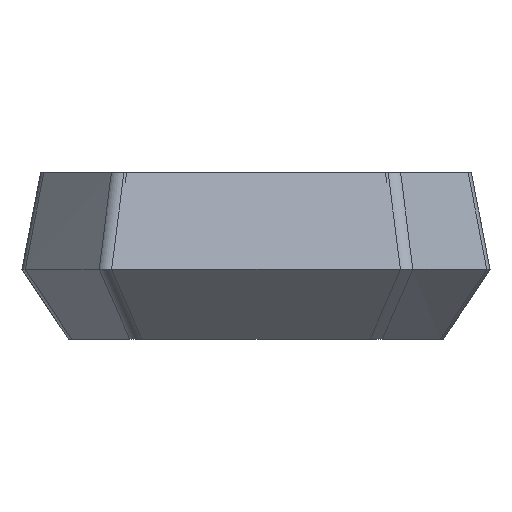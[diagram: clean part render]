
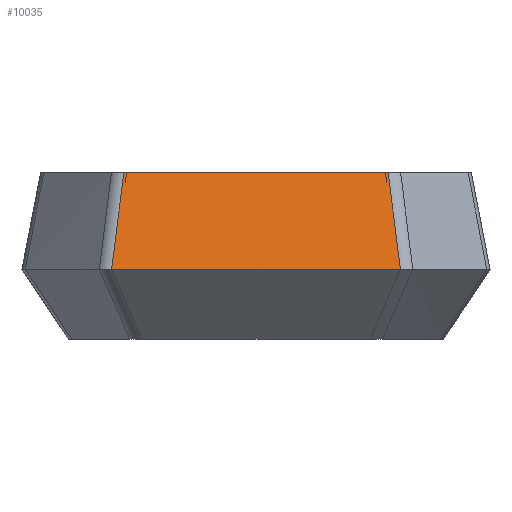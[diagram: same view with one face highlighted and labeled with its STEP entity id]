
A CAD part, left-side view. The second image highlights one B-rep face of the part: STEP entity #10035.
In plain terms, the highlighted free-form (B-spline) face has degree [1, 1] with [2, 2] control points.
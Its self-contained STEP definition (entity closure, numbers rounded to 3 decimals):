
#599 = B_SPLINE_SURFACE_WITH_KNOTS('',1,1,(
    (#600,#601)
    ,(#602,#603
    )),.UNSPECIFIED.,.F.,.F.,.F.,(2,2),(2,2),(2.948,
    114.052),(0.,1.),.PIECEWISE_BEZIER_KNOTS.);
#600 = CARTESIAN_POINT('',(-142.8,43.886,-32.));
#601 = CARTESIAN_POINT('',(-170.,55.552,-5.12));
#602 = CARTESIAN_POINT('',(-142.8,-43.886,-32.));
#603 = CARTESIAN_POINT('',(-170.,-55.552,-5.12));
#737 = PLANE('',#738);
#738 = AXIS2_PLACEMENT_3D('',#739,#740,#741);
#739 = CARTESIAN_POINT('',(-120.745,-76.8,32.));
#740 = DIRECTION('',(0.,0.,-1.));
#741 = DIRECTION('',(-1.,0.,0.));
#762 = B_SPLINE_SURFACE_WITH_KNOTS('',7,1,(
    (#763,#764)
    ,(#765,#766)
    ,(#767,#768)
    ,(#769,#770)
    ,(#771,#772)
    ,(#773,#774)
    ,(#775,#776)
    ,(#777,#778
    )),.UNSPECIFIED.,.F.,.F.,.F.,(8,8),(2,2),(0.,0.929),(0.,1.)
  ,.PIECEWISE_BEZIER_KNOTS.);
#763 = CARTESIAN_POINT('',(-170.,-55.552,-5.12));
#764 = CARTESIAN_POINT('',(-161.5,-50.814,32.));
#765 = CARTESIAN_POINT('',(-170.,-56.335,-5.12));
#766 = CARTESIAN_POINT('',(-161.5,-51.611,32.));
#767 = CARTESIAN_POINT('',(-169.881,-57.118,-5.12));
#768 = CARTESIAN_POINT('',(-161.377,-52.407,32.));
#769 = CARTESIAN_POINT('',(-169.643,-57.879,-5.12));
#770 = CARTESIAN_POINT('',(-161.13,-53.18,
    32.));
#771 = CARTESIAN_POINT('',(-169.29,-58.597,-5.12));
#772 = CARTESIAN_POINT('',(-160.766,-53.907,
    32.));
#773 = CARTESIAN_POINT('',(-168.833,-59.25,-5.12));
#774 = CARTESIAN_POINT('',(-160.294,-54.568,32.));
#775 = CARTESIAN_POINT('',(-168.286,-59.823,-5.12));
#776 = CARTESIAN_POINT('',(-159.73,-55.143,32.));
#777 = CARTESIAN_POINT('',(-167.667,-60.301,-5.12));
#778 = CARTESIAN_POINT('',(-159.093,-55.62,32.));
#792 = VERTEX_POINT('',#793);
#793 = CARTESIAN_POINT('',(-170.,-55.552,-5.12));
#2196 = VERTEX_POINT('',#2197);
#2197 = CARTESIAN_POINT('',(-170.,55.552,-5.12));
#2231 = B_SPLINE_SURFACE_WITH_KNOTS('',7,1,(
    (#2232,#2233)
    ,(#2234,#2235)
    ,(#2236,#2237)
    ,(#2238,#2239)
    ,(#2240,#2241)
    ,(#2242,#2243)
    ,(#2244,#2245)
    ,(#2246,#2247
    )),.UNSPECIFIED.,.F.,.F.,.F.,(8,8),(2,2),(5.354,
    6.283),(0.,1.),.PIECEWISE_BEZIER_KNOTS.);
#2232 = CARTESIAN_POINT('',(-167.667,60.301,-5.12));
#2233 = CARTESIAN_POINT('',(-159.093,55.62,32.));
#2234 = CARTESIAN_POINT('',(-168.286,59.823,-5.12));
#2235 = CARTESIAN_POINT('',(-159.73,55.143,32.));
#2236 = CARTESIAN_POINT('',(-168.833,59.25,-5.12));
#2237 = CARTESIAN_POINT('',(-160.294,54.568,32.));
#2238 = CARTESIAN_POINT('',(-169.29,58.597,-5.12));
#2239 = CARTESIAN_POINT('',(-160.766,53.907,32.));
#2240 = CARTESIAN_POINT('',(-169.643,57.879,-5.12));
#2241 = CARTESIAN_POINT('',(-161.13,53.18,32.));
#2242 = CARTESIAN_POINT('',(-169.881,57.118,-5.12));
#2243 = CARTESIAN_POINT('',(-161.377,52.407,32.));
#2244 = CARTESIAN_POINT('',(-170.,56.335,-5.12));
#2245 = CARTESIAN_POINT('',(-161.5,51.611,32.));
#2246 = CARTESIAN_POINT('',(-170.,55.552,-5.12));
#2247 = CARTESIAN_POINT('',(-161.5,50.814,32.));
#2260 = EDGE_CURVE('',#2196,#792,#2261,.T.);
#2261 = SURFACE_CURVE('',#2262,(#2266,#2273),.PCURVE_S1.);
#2262 = LINE('',#2263,#2264);
#2263 = CARTESIAN_POINT('',(-170.,58.5,-5.12));
#2264 = VECTOR('',#2265,1.);
#2265 = DIRECTION('',(0.,-1.,0.));
#2266 = PCURVE('',#599,#2267);
#2267 = DEFINITIONAL_REPRESENTATION('',(#2268),#2272);
#2268 = LINE('',#2269,#2270);
#2269 = CARTESIAN_POINT('',(0.,1.));
#2270 = VECTOR('',#2271,1.);
#2271 = DIRECTION('',(1.,0.));
#2272 = ( GEOMETRIC_REPRESENTATION_CONTEXT(2) 
PARAMETRIC_REPRESENTATION_CONTEXT() REPRESENTATION_CONTEXT('2D SPACE',''
  ) );
#2273 = PCURVE('',#2274,#2279);
#2274 = B_SPLINE_SURFACE_WITH_KNOTS('',1,1,(
    (#2275,#2276)
    ,(#2277,#2278
    )),.UNSPECIFIED.,.F.,.F.,.F.,(2,2),(2,2),(2.948,
    114.052),(0.,1.),.PIECEWISE_BEZIER_KNOTS.);
#2275 = CARTESIAN_POINT('',(-170.,55.552,-5.12));
#2276 = CARTESIAN_POINT('',(-161.5,50.814,32.));
#2277 = CARTESIAN_POINT('',(-170.,-55.552,-5.12));
#2278 = CARTESIAN_POINT('',(-161.5,-50.814,32.));
#2279 = DEFINITIONAL_REPRESENTATION('',(#2280),#2284);
#2280 = LINE('',#2281,#2282);
#2281 = CARTESIAN_POINT('',(0.,0.));
#2282 = VECTOR('',#2283,1.);
#2283 = DIRECTION('',(1.,0.));
#2284 = ( GEOMETRIC_REPRESENTATION_CONTEXT(2) 
PARAMETRIC_REPRESENTATION_CONTEXT() REPRESENTATION_CONTEXT('2D SPACE',''
  ) );
#2340 = VERTEX_POINT('',#2341);
#2341 = CARTESIAN_POINT('',(-161.5,-50.814,32.));
#2363 = EDGE_CURVE('',#2364,#2340,#2366,.T.);
#2364 = VERTEX_POINT('',#2365);
#2365 = CARTESIAN_POINT('',(-161.5,50.814,32.));
#2366 = SURFACE_CURVE('',#2367,(#2371,#2378),.PCURVE_S1.);
#2367 = LINE('',#2368,#2369);
#2368 = CARTESIAN_POINT('',(-161.5,53.82,32.));
#2369 = VECTOR('',#2370,1.);
#2370 = DIRECTION('',(0.,-1.,0.));
#2371 = PCURVE('',#737,#2372);
#2372 = DEFINITIONAL_REPRESENTATION('',(#2373),#2377);
#2373 = LINE('',#2374,#2375);
#2374 = CARTESIAN_POINT('',(40.755,130.62));
#2375 = VECTOR('',#2376,1.);
#2376 = DIRECTION('',(0.,-1.));
#2377 = ( GEOMETRIC_REPRESENTATION_CONTEXT(2) 
PARAMETRIC_REPRESENTATION_CONTEXT() REPRESENTATION_CONTEXT('2D SPACE',''
  ) );
#2378 = PCURVE('',#2274,#2379);
#2379 = DEFINITIONAL_REPRESENTATION('',(#2380),#2383);
#2380 = B_SPLINE_CURVE_WITH_KNOTS('',1,(#2381,#2382),.UNSPECIFIED.,.F.,
  .F.,(2,2),(3.006,104.634),.PIECEWISE_BEZIER_KNOTS.);
#2381 = CARTESIAN_POINT('',(2.948,1.));
#2382 = CARTESIAN_POINT('',(114.052,1.));
#2383 = ( GEOMETRIC_REPRESENTATION_CONTEXT(2) 
PARAMETRIC_REPRESENTATION_CONTEXT() REPRESENTATION_CONTEXT('2D SPACE',''
  ) );
#4875 = EDGE_CURVE('',#792,#2340,#4876,.T.);
#4876 = SURFACE_CURVE('',#4877,(#4880,#4887),.PCURVE_S1.);
#4877 = B_SPLINE_CURVE_WITH_KNOTS('',1,(#4878,#4879),.UNSPECIFIED.,.F.,
  .F.,(2,2),(0.,1.),.PIECEWISE_BEZIER_KNOTS.);
#4878 = CARTESIAN_POINT('',(-170.,-55.552,-5.12));
#4879 = CARTESIAN_POINT('',(-161.5,-50.814,32.));
#4880 = PCURVE('',#762,#4881);
#4881 = DEFINITIONAL_REPRESENTATION('',(#4882),#4886);
#4882 = LINE('',#4883,#4884);
#4883 = CARTESIAN_POINT('',(0.,0.));
#4884 = VECTOR('',#4885,1.);
#4885 = DIRECTION('',(0.,1.));
#4886 = ( GEOMETRIC_REPRESENTATION_CONTEXT(2) 
PARAMETRIC_REPRESENTATION_CONTEXT() REPRESENTATION_CONTEXT('2D SPACE',''
  ) );
#4887 = PCURVE('',#2274,#4888);
#4888 = DEFINITIONAL_REPRESENTATION('',(#4889),#4893);
#4889 = LINE('',#4890,#4891);
#4890 = CARTESIAN_POINT('',(114.052,0.));
#4891 = VECTOR('',#4892,1.);
#4892 = DIRECTION('',(0.,1.));
#4893 = ( GEOMETRIC_REPRESENTATION_CONTEXT(2) 
PARAMETRIC_REPRESENTATION_CONTEXT() REPRESENTATION_CONTEXT('2D SPACE',''
  ) );
#10014 = EDGE_CURVE('',#2196,#2364,#10015,.T.);
#10015 = SURFACE_CURVE('',#10016,(#10019,#10026),.PCURVE_S1.);
#10016 = B_SPLINE_CURVE_WITH_KNOTS('',1,(#10017,#10018),.UNSPECIFIED.,
  .F.,.F.,(2,2),(0.,1.),.PIECEWISE_BEZIER_KNOTS.);
#10017 = CARTESIAN_POINT('',(-170.,55.552,-5.12));
#10018 = CARTESIAN_POINT('',(-161.5,50.814,32.));
#10019 = PCURVE('',#2231,#10020);
#10020 = DEFINITIONAL_REPRESENTATION('',(#10021),#10025);
#10021 = LINE('',#10022,#10023);
#10022 = CARTESIAN_POINT('',(6.283,0.));
#10023 = VECTOR('',#10024,1.);
#10024 = DIRECTION('',(0.,1.));
#10025 = ( GEOMETRIC_REPRESENTATION_CONTEXT(2) 
PARAMETRIC_REPRESENTATION_CONTEXT() REPRESENTATION_CONTEXT('2D SPACE',''
  ) );
#10026 = PCURVE('',#2274,#10027);
#10027 = DEFINITIONAL_REPRESENTATION('',(#10028),#10032);
#10028 = LINE('',#10029,#10030);
#10029 = CARTESIAN_POINT('',(2.948,0.));
#10030 = VECTOR('',#10031,1.);
#10031 = DIRECTION('',(0.,1.));
#10032 = ( GEOMETRIC_REPRESENTATION_CONTEXT(2) 
PARAMETRIC_REPRESENTATION_CONTEXT() REPRESENTATION_CONTEXT('2D SPACE',''
  ) );
#10035 = ADVANCED_FACE('',(#10036),#2274,.T.);
#10036 = FACE_BOUND('',#10037,.T.);
#10037 = EDGE_LOOP('',(#10038,#10039,#10040,#10041));
#10038 = ORIENTED_EDGE('',*,*,#2260,.T.);
#10039 = ORIENTED_EDGE('',*,*,#4875,.T.);
#10040 = ORIENTED_EDGE('',*,*,#2363,.F.);
#10041 = ORIENTED_EDGE('',*,*,#10014,.F.);
